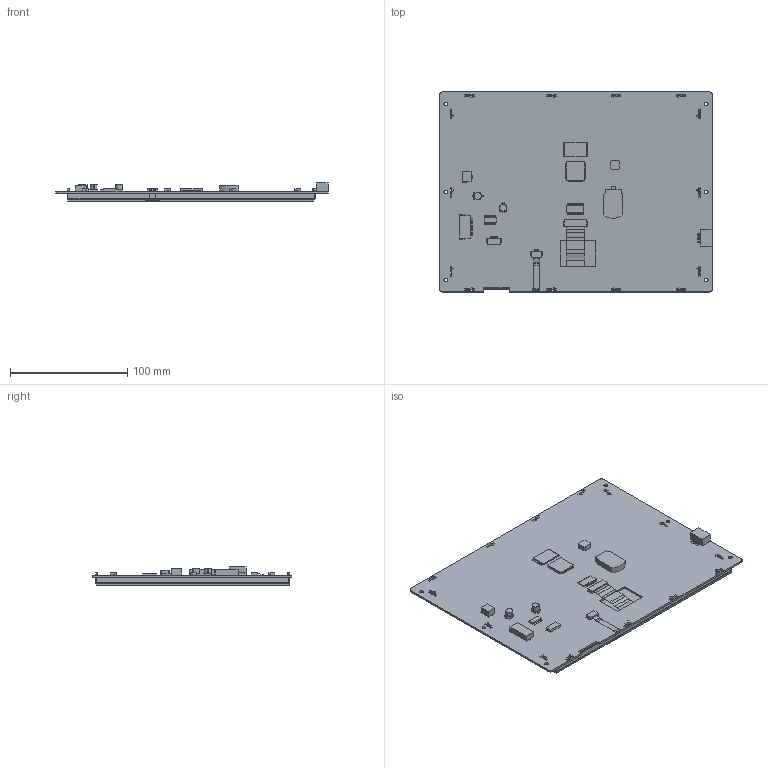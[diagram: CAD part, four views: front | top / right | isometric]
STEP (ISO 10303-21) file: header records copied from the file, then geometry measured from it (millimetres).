
FILE_DESCRIPTION(/* description */ (''),/* implementation_level */ '2;1');
FILE_NAME(/* name */ '3D_SDWe097T87T.stp',/* time_stamp */ '2020-09-30T11:32:34+08:00',/* author */ (''),/* organization */ (''),/* preprocessor_version */ 'ST-DEVELOPER v15',/* originating_system */ 'SIEMENS PLM Software NX 8.5',/* authorisation */ '');
FILE_SCHEMA (('AP203_CONFIGURATION_CONTROLLED_3D_DESIGN_OF_MECHANICAL_PARTS_AND_ASSEMBLIES_MIM_LF { 1 0 10303 403 2 1 2}'));
Products named in the file (1): SDWe097T87
Bounding box: 232.4 x 170.7 x 15.4 mm (x, y, z)
Volume: 284076.2 mm3; surface area: 267204.9 mm2
Topology: 386 solids, 386 shells, 2567 faces, 5357 edges, 3562 vertices
Faces by surface type: plane 2446, cylinder 113, extrusion 8
Full cylindrical faces by diameter (mm): 3.2 x6
Entity records: 73479 total; most frequent: CARTESIAN_POINT 11915, ORIENTED_EDGE 10694, DIRECTION 10609, EDGE_CURVE 5347, VECTOR 5093, LINE 5085, VERTEX_POINT 3562, AXIS2_PLACEMENT_3D 2758
